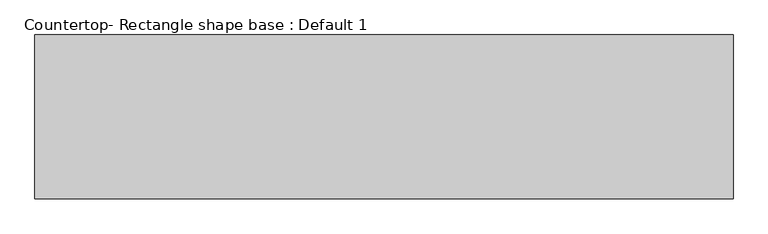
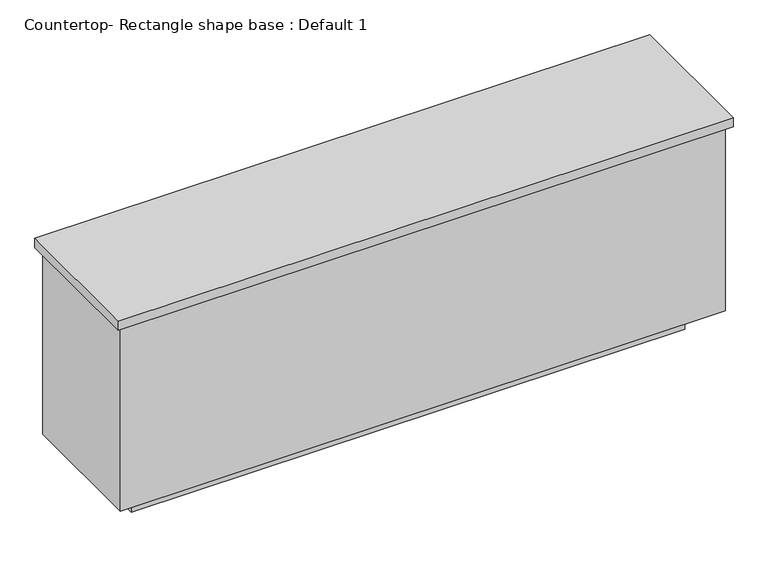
"""IFC4 building model written with IfcOpenShell, lengths in millimetres: proxy geometry, Countertop- Rectangle shape base : Default 1."""

from ifc_helpers import new_model, si_unit, frame, origin, origin_with_axes, place, context, project, spatial, polyline, outline, extrude, source, transform, mapped, element, save


def countertop_rectangle_shape_base_default_1_3cfd87b4(model_context):
    return source(origin(), model_context, "Body", "SweptSolid", [
        extrude(outline(polyline([(-454.025, 95.25), (-454.025, 666.75), (1978.025, 666.75), (1978.025, 95.25), (-454.025, 95.25)])), frame((0.0, 0.0, 876.3), z_axis=(0.0, 0.0, 1.0), x_axis=(1.0, 0.0, 0.0)), (0.0, 0.0, 1.0), 38.1),
        extrude(outline(polyline([(1958.975, 647.7), (1958.975, 114.3), (-434.975, 114.3), (-434.975, 647.7), (1958.975, 647.7)])), frame((0.0, 0.0, 101.6), z_axis=(0.0, 0.0, 1.0), x_axis=(1.0, 0.0, 0.0)), (0.0, 0.0, 1.0), 774.7),
        extrude(outline(polyline([(1857.375, 546.1), (1857.375, 215.9), (-333.375, 215.9), (-333.375, 546.1), (1857.375, 546.1)])), origin_with_axes(), (0.0, 0.0, 1.0), 101.6),
    ])


if __name__ == "__main__":
    model = new_model("IFC4")
    model_context = context("Model", 3, world=origin())
    ifc_project = project(units=[si_unit("LENGTHUNIT", "METRE", prefix="MILLI")], contexts=[model_context])
    site = spatial("IfcSite", under=ifc_project)
    building = spatial("IfcBuilding", under=site)
    placement = place(None, origin())
    countertop_rectangle_shape_base_default_1_shape = countertop_rectangle_shape_base_default_1_3cfd87b4(model_context)
    element("IfcBuildingElementProxy", 1, Name="Countertop- Rectangle shape base : Default 1", ObjectType="Countertop- Rectangle shape base : Default 1", at=placement, inside=building, context=model_context, shape_type="MappedRepresentation", body=[
        mapped(countertop_rectangle_shape_base_default_1_shape, transform((0.0, 0.0, 0.0), x_axis=(1.0, 0.0, 0.0), y_axis=(0.0, 1.0, 0.0), z_axis=(0.0, 0.0, 1.0))),
    ])
    save(model, "model.ifc")
